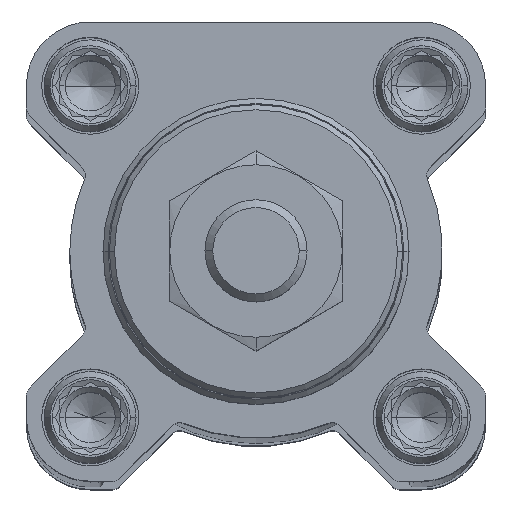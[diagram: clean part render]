
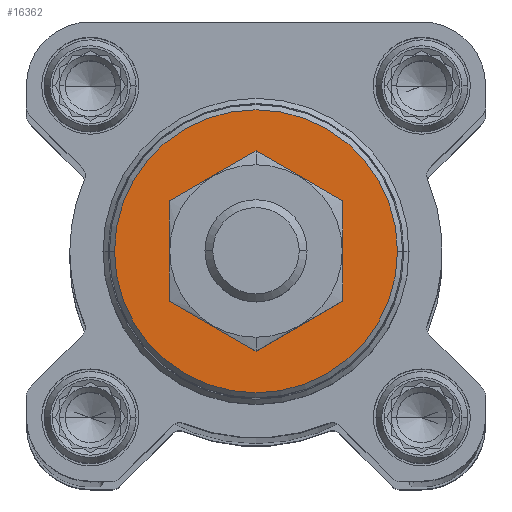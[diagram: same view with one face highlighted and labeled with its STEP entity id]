
A CAD part, top view. The second image highlights one B-rep face of the part: STEP entity #16362.
In plain terms, the highlighted planar face has unit normal (0, 0, 1).
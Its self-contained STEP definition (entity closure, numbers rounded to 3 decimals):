
#488 = EDGE_LOOP ( 'NONE', ( #4498, #14030 ) ) ;
#1094 = VERTEX_POINT ( 'NONE', #11317 ) ;
#1973 = CIRCLE ( 'NONE', #10899, 13.869 ) ;
#1978 = CARTESIAN_POINT ( 'NONE',  ( 0., 0., 18. ) ) ;
#2724 = EDGE_LOOP ( 'NONE', ( #10551, #13820 ) ) ;
#2818 = CARTESIAN_POINT ( 'NONE',  ( 0., 0., 18. ) ) ;
#3375 = DIRECTION ( 'NONE',  ( 0., 0., -1. ) ) ;
#3591 = DIRECTION ( 'NONE',  ( 0., 0., -1. ) ) ;
#4498 = ORIENTED_EDGE ( 'NONE', *, *, #18139, .F. ) ;
#4959 = FACE_BOUND ( 'NONE', #2724, .T. ) ;
#5699 = DIRECTION ( 'NONE',  ( -1., 0., 0. ) ) ;
#6254 = EDGE_CURVE ( 'NONE', #1094, #7037, #6833, .T. ) ;
#6833 = CIRCLE ( 'NONE', #18273, 13.869 ) ;
#6870 = CARTESIAN_POINT ( 'NONE',  ( 6., 0., 18. ) ) ;
#7037 = VERTEX_POINT ( 'NONE', #11020 ) ;
#7181 = CARTESIAN_POINT ( 'NONE',  ( -6., 0., 18. ) ) ;
#7647 = FACE_OUTER_BOUND ( 'NONE', #488, .T. ) ;
#8081 = CARTESIAN_POINT ( 'NONE',  ( 0., 0., 18. ) ) ;
#8370 = AXIS2_PLACEMENT_3D ( 'NONE', #11032, #3375, #12231 ) ;
#9875 = CARTESIAN_POINT ( 'NONE',  ( 0., 0., 18. ) ) ;
#9928 = CIRCLE ( 'NONE', #11522, 6. ) ;
#10454 = VERTEX_POINT ( 'NONE', #6870 ) ;
#10551 = ORIENTED_EDGE ( 'NONE', *, *, #11306, .T. ) ;
#10852 = AXIS2_PLACEMENT_3D ( 'NONE', #2818, #13469, #5699 ) ;
#10899 = AXIS2_PLACEMENT_3D ( 'NONE', #1978, #17192, #18780 ) ;
#11020 = CARTESIAN_POINT ( 'NONE',  ( -13.869, 0., 18. ) ) ;
#11032 = CARTESIAN_POINT ( 'NONE',  ( 0., 0., 18. ) ) ;
#11306 = EDGE_CURVE ( 'NONE', #17577, #10454, #13377, .T. ) ;
#11317 = CARTESIAN_POINT ( 'NONE',  ( 13.869, 0., 18. ) ) ;
#11522 = AXIS2_PLACEMENT_3D ( 'NONE', #9875, #13060, #14636 ) ;
#12231 = DIRECTION ( 'NONE',  ( 0., -1., 0. ) ) ;
#13060 = DIRECTION ( 'NONE',  ( 0., 0., -1. ) ) ;
#13377 = CIRCLE ( 'NONE', #10852, 6. ) ;
#13469 = DIRECTION ( 'NONE',  ( 0., 0., -1. ) ) ;
#13820 = ORIENTED_EDGE ( 'NONE', *, *, #15682, .T. ) ;
#14030 = ORIENTED_EDGE ( 'NONE', *, *, #6254, .F. ) ;
#14142 = DIRECTION ( 'NONE',  ( -1., 0., 0. ) ) ;
#14636 = DIRECTION ( 'NONE',  ( -1., 0., 0. ) ) ;
#15682 = EDGE_CURVE ( 'NONE', #10454, #17577, #9928, .T. ) ;
#16362 = ADVANCED_FACE ( 'NONE', ( #7647, #4959 ), #19672, .F. ) ;
#17192 = DIRECTION ( 'NONE',  ( 0., 0., -1. ) ) ;
#17577 = VERTEX_POINT ( 'NONE', #7181 ) ;
#18139 = EDGE_CURVE ( 'NONE', #7037, #1094, #1973, .T. ) ;
#18273 = AXIS2_PLACEMENT_3D ( 'NONE', #8081, #3591, #14142 ) ;
#18780 = DIRECTION ( 'NONE',  ( -1., 0., 0. ) ) ;
#19672 = PLANE ( 'NONE',  #8370 ) ;
